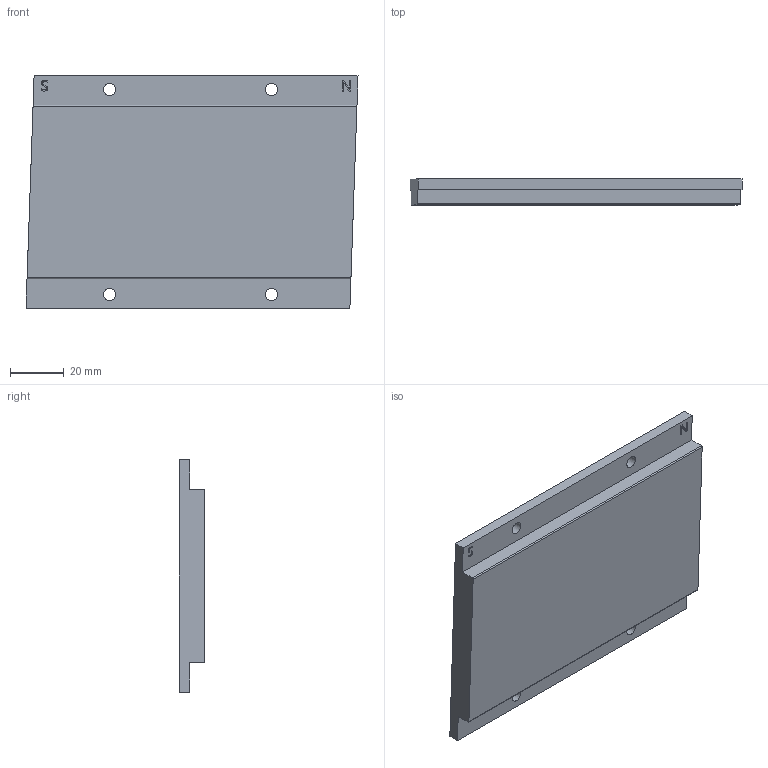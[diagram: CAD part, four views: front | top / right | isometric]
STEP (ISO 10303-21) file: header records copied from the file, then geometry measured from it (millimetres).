
FILE_DESCRIPTION( ( 'Unknown' ), '1' );
FILE_NAME( 'C:/Users/gyt/Desktop/电机制造图/DPD/DPD修改/官网3D/DPD86M120.stp', 'Unknown', ( 'Unknown' ), ( 'Unknown' ), 'PSStep 17.0.49', 'Unknown', ' ' );
FILE_SCHEMA( ( 'AUTOMOTIVE_DESIGN { 1 0 10303 214 1 1 1 1 }' ) );
Length unit declared in the file: millimetre
Products named in the file (1): 1
Bounding box: 123 x 9.6 x 86 mm (x, y, z)
Volume: 84292.3 mm3; surface area: 24416 mm2
Topology: 1 solids, 1 shells, 34 faces, 90 edges, 60 vertices
Faces by surface type: plane 22, extrusion 6, cylinder 6
Full cylindrical faces by diameter (mm): 4.5 x4
Entity records: 1563 total; most frequent: CARTESIAN_POINT 478, ORIENTED_EDGE 172, DIRECTION 130, EDGE_CURVE 86, VERTEX_POINT 60, EDGE_LOOP 48, VECTOR 48, LINE 42
